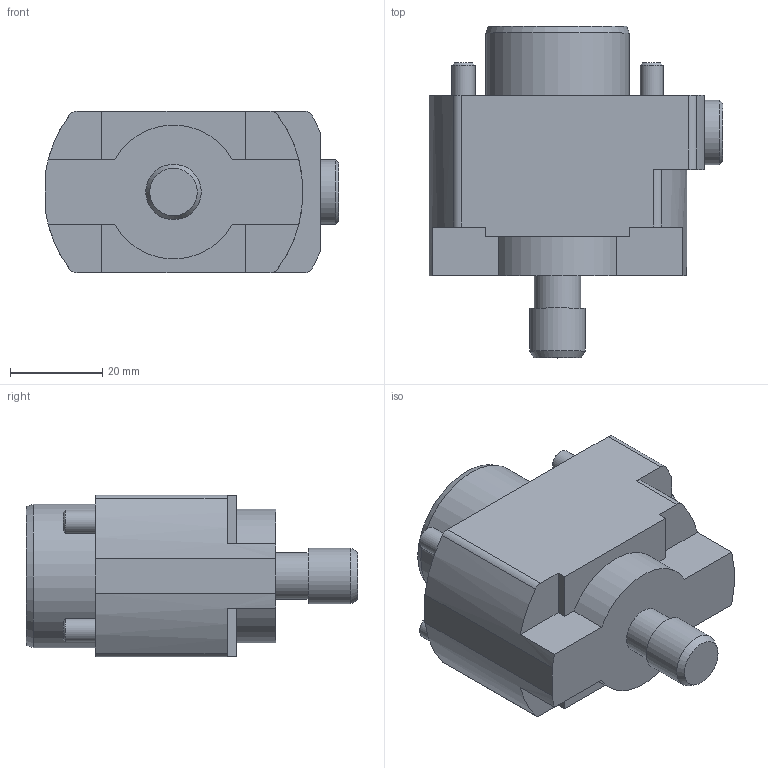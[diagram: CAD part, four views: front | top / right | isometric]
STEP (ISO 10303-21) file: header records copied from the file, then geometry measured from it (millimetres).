
FILE_DESCRIPTION (( 'STEP AP214' ), '1' );
FILE_NAME ('97-000-310 - light.STEP', '2024-11-05T16:54:26', ( 'pc' ), ( '' ), 'SwSTEP 2.0', 'SolidWorks 2024', '' );
FILE_SCHEMA (( 'AUTOMOTIVE_DESIGN' ));
Length unit declared in the file: millimetre
Products named in the file (1): 97-000-310 - light
Bounding box: 63.5 x 71.8 x 35 mm (x, y, z)
Volume: 80665 mm3; surface area: 13495.5 mm2
Topology: 1 solids, 1 shells, 63 faces, 144 edges, 93 vertices
Faces by surface type: plane 31, cylinder 23, cone 9
Full cylindrical faces by diameter (mm): 5 x4, 10 x1, 12 x1, 14 x2, 15 x1, 31 x1
Entity records: 1713 total; most frequent: DIRECTION 312, CARTESIAN_POINT 282, ORIENTED_EDGE 250, EDGE_CURVE 125, AXIS2_PLACEMENT_3D 123, VERTEX_POINT 93, EDGE_LOOP 92, FACE_OUTER_BOUND 73
